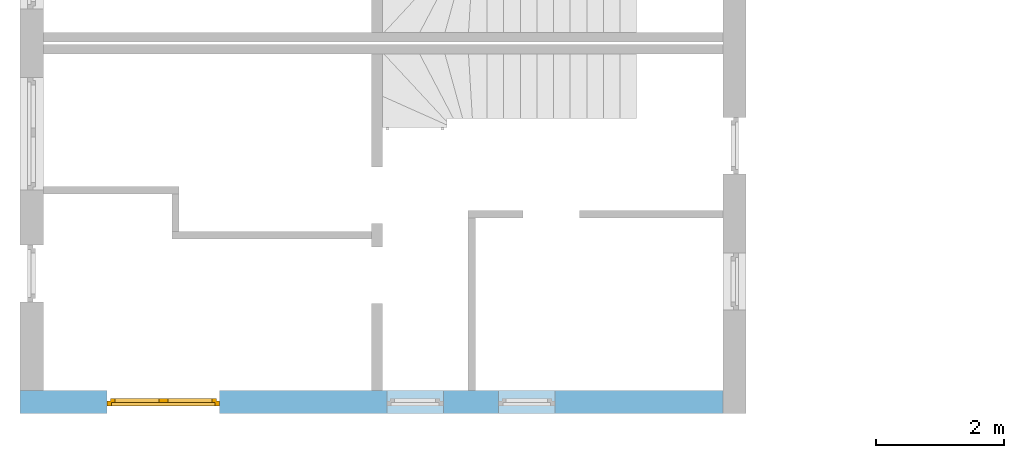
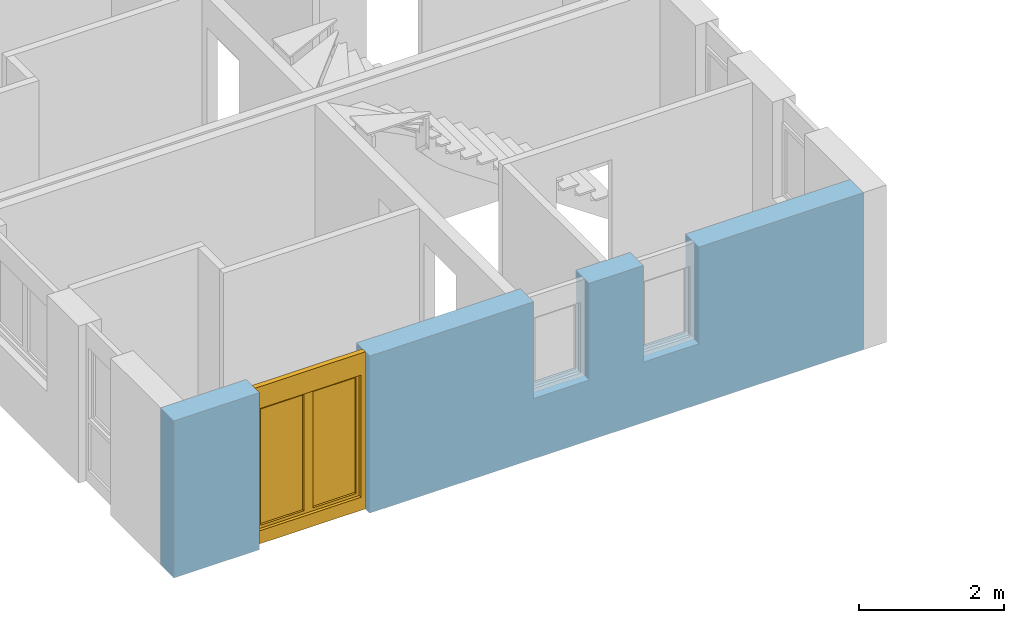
# One storey, part 4 of 42: 1 window, 3 openings, plus 1 element that does not belong to this part.
"""IFC2X3 building model written with IfcOpenShell, lengths in millimetres."""

import ifcopenshell
import ifcopenshell.guid

model = None  # the IFC model being written
_history = None  # IfcOwnerHistory: only IFC2X3 demands one
_inside = {}  # id of a spatial element -> (the spatial element, [elements in it])
_under = {}  # id of a project, library or spatial element -> (it, [spatial elements below it])
_declared = {}  # id of a project -> (the project, [libraries it declares])
_typed = {}  # id of a type object -> (the type object, [elements of that type])
_made_of = {}  # id of a material, layer set ... -> (it, [elements and type objects made of it])


def new_model(schema):
    """Start an empty IFC model of exactly this schema.

    Asked for "IFC4X3", IfcOpenShell would pick the latest addendum, in which some entities
    have other attributes; the version numbers below select the first issue.
    IFC2X3 requires an IfcOwnerHistory on every rooted entity: one is made here for all.
    """
    global model, _history
    if schema == "IFC4X3":
        model = ifcopenshell.file(schema_version=(4, 3, 0, 0))
    else:
        model = ifcopenshell.file(schema=schema)
    _inside.clear()
    _under.clear()
    _declared.clear()
    _typed.clear()
    _made_of.clear()
    _history = None
    if model.schema == "IFC2X3":
        org = make("IfcOrganization", Name="unknown")
        user = make(
            "IfcPersonAndOrganization",
            ThePerson=make("IfcPerson", FamilyName="unknown"),
            TheOrganization=org,
        )
        app = make(
            "IfcApplication",
            ApplicationDeveloper=org,
            Version="unknown",
            ApplicationFullName="unknown",
            ApplicationIdentifier="unknown",
        )
        _history = make(
            "IfcOwnerHistory",
            OwningUser=user,
            OwningApplication=app,
            ChangeAction="ADDED",
            CreationDate=0,
        )
    return model


def make(cls, **values):
    """One entity of the class cls with the attributes given. An attribute that is None is left unset."""
    return model.create_entity(
        cls, **{name: value for name, value in values.items() if value is not None}
    )


def entity(cls, *values):
    """Any entity or typed value of the class cls, its attributes in the order of the schema. None: left unset."""
    e = model.create_entity(cls)
    for i, value in enumerate(values):
        if value is not None:
            e[i] = value
    return e


def rooted(cls, **values):
    """An entity with a GlobalId (a new one), such as an element, a storey or a relation."""
    return make(cls, GlobalId=ifcopenshell.guid.new(), OwnerHistory=_history, **values)


def si_unit(unit_type, name, prefix=None):
    """IfcSIUnit, for example si_unit("LENGTHUNIT", "METRE", prefix="MILLI")."""
    return make("IfcSIUnit", UnitType=unit_type, Prefix=prefix, Name=name)


def converted_unit(unit_type, name, factor, base, dimensions=None, offset=None):
    """IfcConversionBasedUnit, such as the inch: factor (a typed value) times the base unit."""
    return make(
        "IfcConversionBasedUnit"
        if offset is None
        else "IfcConversionBasedUnitWithOffset",
        ConversionOffset=offset,
        Dimensions=None
        if dimensions is None
        else entity("IfcDimensionalExponents", *dimensions),
        UnitType=unit_type,
        Name=name,
        ConversionFactor=make(
            "IfcMeasureWithUnit", ValueComponent=factor, UnitComponent=base
        ),
    )


def assignment(units):
    """IfcUnitAssignment: the units of a project."""
    return None if units is None else make("IfcUnitAssignment", Units=units)


def point(xyz):
    """IfcCartesianPoint."""
    return None if xyz is None else make("IfcCartesianPoint", Coordinates=xyz)


def direction(xyz):
    """IfcDirection."""
    return None if xyz is None else make("IfcDirection", DirectionRatios=xyz)


def frame(location, z_axis=None, x_axis=None):
    """IfcAxis2Placement3D, a coordinate frame: its origin and axes. An axis left out is left unset."""
    return make(
        "IfcAxis2Placement3D",
        Location=point(location),
        Axis=direction(z_axis),
        RefDirection=direction(x_axis),
    )


def frame_2d(location, x_axis=None):
    """IfcAxis2Placement2D, a coordinate frame in the plane: its origin and x axis."""
    return make(
        "IfcAxis2Placement2D", Location=point(location), RefDirection=direction(x_axis)
    )


def origin():
    """The frame at (0, 0, 0) with its axes left unset."""
    return frame((0.0, 0.0, 0.0))


def origin_with_axes():
    """The frame at (0, 0, 0) with the z axis (0, 0, 1) and the x axis (1, 0, 0) written out."""
    return frame((0.0, 0.0, 0.0), z_axis=(0.0, 0.0, 1.0), x_axis=(1.0, 0.0, 0.0))


def place(relative_to, where):
    """IfcLocalPlacement: puts the frame where relative to a parent placement (None: the world)."""
    return make(
        "IfcLocalPlacement", PlacementRelTo=relative_to, RelativePlacement=where
    )


def context(
    kind, dimensions, precision=None, world=None, true_north=None, identifier=None
):
    """IfcGeometricRepresentationContext, for example the 3D "Model" context."""
    return make(
        "IfcGeometricRepresentationContext",
        ContextIdentifier=identifier,
        ContextType=kind,
        CoordinateSpaceDimension=dimensions,
        Precision=precision,
        WorldCoordinateSystem=world,
        TrueNorth=true_north,
    )


def subcontext(parent, identifier, kind, view, scale=None):
    """IfcGeometricRepresentationSubContext, for example "Body" below "Model"."""
    return make(
        "IfcGeometricRepresentationSubContext",
        ContextIdentifier=identifier,
        ContextType=kind,
        ParentContext=parent,
        TargetScale=scale,
        TargetView=view,
    )


def project(units=None, contexts=None):
    """IfcProject with its units and contexts."""
    return rooted(
        "IfcProject",
        Name="project",
        RepresentationContexts=contexts,
        UnitsInContext=assignment(units),
    )


def spatial(cls, under=None, at=None, **own):
    """A site, building, storey or space (cls), placed at a placement, below another one or the project."""
    s = rooted(cls, ObjectPlacement=at, **own)
    if under is not None:
        _under.setdefault(under.id(), (under, []))[1].append(s)
    return s


def profile(cls, at=None, kind="AREA", **sizes):
    """A parametric profile (cls). Its sizes go by their IFC names, for example OverallWidth=200.0."""
    return make(cls, ProfileType=kind, Position=at, **sizes)


def rectangle(**sizes):
    """IfcRectangleProfileDef."""
    return profile("IfcRectangleProfileDef", **sizes)


def extrude(swept, where, along, depth):
    """IfcExtrudedAreaSolid: the profile swept, set in the frame where, extruded along a direction by depth."""
    return make(
        "IfcExtrudedAreaSolid",
        SweptArea=swept,
        Position=where,
        ExtrudedDirection=direction(along),
        Depth=depth,
    )


def faces_of(points, faces, orient=None, outer=None):
    """IfcFace entities. A face is a list of loops; a loop is a list of indices into points, from 0.

    orient and outer hold one flag for each loop. By default every Orientation is true, the
    first loop of a face is its IfcFaceOuterBound and the others are IfcFaceBound.
    """
    made = []
    for i, loops in enumerate(faces):
        bounds = []
        for j, loop in enumerate(loops):
            is_outer = j == 0 if outer is None else outer[i][j]
            bounds.append(
                make(
                    "IfcFaceOuterBound" if is_outer else "IfcFaceBound",
                    Bound=make("IfcPolyLoop", Polygon=[points[k] for k in loop]),
                    Orientation=True if orient is None else orient[i][j],
                )
            )
        made.append(make("IfcFace", Bounds=bounds))
    return made


def faceted_brep(points, faces, orient=None, outer=None, voids=None):
    """IfcFacetedBrep: a solid bounded by flat faces; with voids (closed shells), ...WithVoids."""
    shared = [point(p) for p in points]
    hull = make("IfcClosedShell", CfsFaces=faces_of(shared, faces, orient, outer))
    if voids is None:
        return make("IfcFacetedBrep", Outer=hull)
    return make(
        "IfcFacetedBrepWithVoids",
        Outer=hull,
        Voids=[
            make(cls, CfsFaces=faces_of(shared, fs, o, b)) for cls, fs, o, b in voids
        ],
    )


def shape(context_of_items, identifier, shape_type, items):
    """IfcShapeRepresentation: the items that make up one representation, for example the "Body"."""
    return make(
        "IfcShapeRepresentation",
        ContextOfItems=context_of_items,
        RepresentationIdentifier=identifier,
        RepresentationType=shape_type,
        Items=items,
    )


def material(Name=None, Category=None):
    """IfcMaterial."""
    return make("IfcMaterial", Name=Name, Category=Category)


def layer(
    of_material, thickness, ventilated=None, Name=None, Category=None, Priority=None
):
    """IfcMaterialLayer: one layer of a wall or slab, of a material (None: an air gap)."""
    return make(
        "IfcMaterialLayer",
        Material=of_material,
        LayerThickness=thickness,
        IsVentilated=ventilated,
        Name=Name,
        Category=Category,
        Priority=Priority,
    )


def layer_set(layers, Name=None):
    """IfcMaterialLayerSet."""
    return make("IfcMaterialLayerSet", MaterialLayers=layers, LayerSetName=Name)


def layer_usage(for_layer_set, set_direction, sense, offset, extent=None):
    """IfcMaterialLayerSetUsage: how a layer set lies in its element."""
    return make(
        "IfcMaterialLayerSetUsage",
        ForLayerSet=for_layer_set,
        LayerSetDirection=set_direction,
        DirectionSense=sense,
        OffsetFromReferenceLine=offset,
        ReferenceExtent=extent,
    )


def made_of(thing, what):
    """Note that an element or type object is made of a material, layer set ...; save() writes the relation."""
    if what is not None:
        _made_of.setdefault(what.id(), (what, []))[1].append(thing)
    return thing


def type_object(cls, material=None, **own):
    """A type object (cls), such as IfcWallType, which elements share."""
    return made_of(rooted(cls, **own), material)


def element(
    cls,
    number,
    at=None,
    inside=None,
    cuts=None,
    type_object=None,
    material=None,
    context=None,
    identifier="Body",
    shape_type=None,
    held_by="IfcProductDefinitionShape",
    body=None,
    shapes=None,
    **own,
):
    """One element of the class cls, such as IfcWall. Its Tag is "e" and its number.

    at: its placement. inside: the storey or other place that contains it. cuts: it is an
    opening in that element (IfcRelVoidsElement). A single representation is given by context,
    identifier, shape_type and body (its items); several are given by shapes. held_by: the class
    of the entity that holds the representations. save() writes the other relations.
    """
    e = rooted(cls, Tag="e%d" % number, ObjectPlacement=at, **own)
    if body is not None:
        shapes = [shape(context, identifier, shape_type, body)]
    if shapes is not None:
        e.Representation = make(held_by, Representations=shapes)
    if inside is not None:
        _inside.setdefault(inside.id(), (inside, []))[1].append(e)
    if cuts is not None:
        rooted(
            "IfcRelVoidsElement", RelatingBuildingElement=cuts, RelatedOpeningElement=e
        )
    if type_object is not None:
        _typed.setdefault(type_object.id(), (type_object, []))[1].append(e)
    return made_of(e, material)


def fill(opening, filler):
    """IfcRelFillsElement: the door or window that sits in an opening."""
    return rooted(
        "IfcRelFillsElement",
        RelatingOpeningElement=opening,
        RelatedBuildingElement=filler,
    )


def aggregate(whole, parts):
    """IfcRelAggregates: a whole, such as a stair, and the parts it consists of."""
    return rooted("IfcRelAggregates", RelatingObject=whole, RelatedObjects=parts)


def save(model, path):
    """Write the relations noted so far, then the file.

    IfcRelAggregates (storeys below a building ...), IfcRelContainedInSpatialStructure (elements
    in a storey), IfcRelDefinesByType, IfcRelAssociatesMaterial and IfcRelDeclares: one each for
    every whole, place, type object, material and project.
    """
    for whole, parts in _under.values():
        aggregate(whole, parts)
    for where, things in _inside.values():
        rooted(
            "IfcRelContainedInSpatialStructure",
            RelatedElements=things,
            RelatingStructure=where,
        )
    for kind, things in _typed.values():
        rooted("IfcRelDefinesByType", RelatedObjects=things, RelatingType=kind)
    for what, things in _made_of.values():
        rooted("IfcRelAssociatesMaterial", RelatedObjects=things, RelatingMaterial=what)
    for by, libraries in _declared.values():
        rooted("IfcRelDeclares", RelatingContext=by, RelatedDefinitions=libraries)
    model.write(path)


model = new_model("IFC2X3")

# Units and contexts
model_context = context("Model", 3, precision=1e-05, world=origin())
body_context = subcontext(model_context, "Body", "Model", "MODEL_VIEW")
ifc_project = project(units=[si_unit("LENGTHUNIT", "METRE", prefix="MILLI"), converted_unit("PLANEANGLEUNIT", "DEGREE", entity("IfcPlaneAngleMeasure", 0.0174532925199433), si_unit("PLANEANGLEUNIT", "RADIAN"), dimensions=[0, 0, 0, 0, 0, 0, 0]), si_unit("AREAUNIT", "SQUARE_METRE"), si_unit("VOLUMEUNIT", "CUBIC_METRE")], contexts=[model_context])

# Building, storey
building_placement = place(None, origin())
building = spatial("IfcBuilding", under=ifc_project, at=building_placement, Name="Gebäude", CompositionType="ELEMENT")
storey_placement = place(building_placement, frame((0.0, 0.0, 2730.0), z_axis=(0.0, 0.0, 1.0), x_axis=(1.0, 0.0, 0.0)))
storey = spatial("IfcBuildingStorey", under=building, at=storey_placement, Name="OG.- Grundriss", CompositionType="ELEMENT", Elevation=2730.0)

# Wall, openings, window
ifc_material_1 = material(Name="Poroton")
ifc_layer = layer(ifc_material_1, 365.0000000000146)
ifc_layer_set = layer_set([ifc_layer])
ifc_layer_usage = layer_usage(ifc_layer_set, "AXIS2", "POSITIVE", 0.0)
wall_placement = place(storey_placement, frame((130992.7928067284, 125274.8877324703, 0.0), z_axis=(0.0, 0.0, 1.0), x_axis=(1.0, -2.749253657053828e-11, 0.0)))
wall = element("IfcWallStandardCase", 1, at=wall_placement, inside=storey, material=ifc_layer_usage, Name="<Unnamed Element>", context=body_context, shape_type="SweptSolid", body=[
    extrude(rectangle(XDim=10999.99999999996, YDim=365.0000000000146, at=frame_2d((5499.999999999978, 182.5000000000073), x_axis=(1.0, 0.0))), origin_with_axes(), (0.0, 0.0, 1.0), 2650.0),
])
opening_1_placement = place(wall_placement, frame((1364.999999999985, -7.494236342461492e-12, 0.0), z_axis=(0.0, 1.0, 0.0), x_axis=(0.0, 0.0, 1.0)))
opening_1 = element("IfcOpeningElement", 2, at=opening_1_placement, cuts=wall, Name="Fensteröffnung", ObjectType="Opening", context=body_context, shape_type="SweptSolid", body=[
    extrude(rectangle(XDim=2650.0, YDim=1760.0, at=frame_2d((1325.0, 880.0), x_axis=(1.0, 0.0))), origin_with_axes(), (0.0, 0.0, 1.0), 365.0000000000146),
])
opening_2_placement = place(wall_placement, frame((7489.999999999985, -3.477907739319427e-11, 1020.0), z_axis=(0.0, 1.0, 0.0), x_axis=(0.0, 0.0, 1.0)))
element("IfcOpeningElement", 3, at=opening_2_placement, cuts=wall, Name="Fensteröffnung", ObjectType="Opening", context=body_context, shape_type="SweptSolid", body=[
    extrude(rectangle(XDim=1630.0, YDim=885.0, at=frame_2d((815.0, 442.5), x_axis=(1.0, 0.0))), origin_with_axes(), (0.0, 0.0, 1.0), 365.0000000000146),
])
opening_3_placement = place(wall_placement, frame((5739.999999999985, -1.658918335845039e-11, 1020.0), z_axis=(0.0, 1.0, 0.0), x_axis=(0.0, 0.0, 1.0)))
element("IfcOpeningElement", 4, at=opening_3_placement, cuts=wall, Name="Fensteröffnung", ObjectType="Opening", context=body_context, shape_type="SweptSolid", body=[
    extrude(rectangle(XDim=1630.0, YDim=885.0, at=frame_2d((815.0, 442.5), x_axis=(1.0, 0.0))), origin_with_axes(), (0.0, 0.0, 1.0), 365.0000000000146),
])
ifc_material_2 = material()
window_style = type_object("IfcWindowStyle", Name="Fenster", ConstructionType="NOTDEFINED", OperationType="USERDEFINED", ParameterTakesPrecedence=False, Sizeable=False)
window_placement = place(opening_1_placement, frame((0.0, 0.0, 0.0), z_axis=(1.0, 0.0, 0.0), x_axis=(0.0, 1.0, 0.0)))
window = element("IfcWindow", 5, at=window_placement, inside=storey, type_object=window_style, material=ifc_material_2, Name="Fenster", OverallHeight=2650.0, OverallWidth=1760.0, context=body_context, shape_type="Brep", body=[
    faceted_brep([(-1.224022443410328e-08, 200.0000000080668, 2650.0), (-1.224022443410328e-08, 200.0000000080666, -2.449293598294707e-15), (69.99999998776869, 200.0000000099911, -2.449293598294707e-15), (69.99999998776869, 200.0000000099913, 2650.0), (-1.004082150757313e-08, 119.9999999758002, 2.449293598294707e-15), (-1.004082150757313e-08, 119.9999999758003, 2650.0), (69.99999998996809, 119.9999999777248, 2650.0), (69.99999998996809, 119.9999999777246, 2.449293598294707e-15), (-1.224022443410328e-08, 200.0000000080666, -2.449293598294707e-15), (-1.224022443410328e-08, 200.0000000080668, 2650.0), (-1.004082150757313e-08, 119.9999999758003, 2650.0), (-1.004082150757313e-08, 119.9999999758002, 2.449293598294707e-15), (69.99999998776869, 200.0000000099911, -2.449293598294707e-15), (-1.224022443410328e-08, 200.0000000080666, -2.449293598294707e-15), (-1.004082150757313e-08, 119.9999999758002, 2.449293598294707e-15), (69.99999998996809, 119.9999999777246, 2.449293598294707e-15), (69.99999998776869, 200.0000000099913, 2650.0), (69.99999998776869, 200.0000000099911, -2.449293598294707e-15), (69.99999998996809, 119.9999999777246, 2.449293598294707e-15), (69.99999998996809, 119.9999999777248, 2650.0), (-1.224022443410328e-08, 200.0000000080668, 2650.0), (69.99999998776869, 200.0000000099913, 2650.0), (69.99999998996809, 119.9999999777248, 2650.0), (-1.004082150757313e-08, 119.9999999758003, 2650.0)], [[[0, 1, 2, 3]], [[4, 5, 6, 7]], [[8, 9, 10, 11]], [[12, 13, 14, 15]], [[16, 17, 18, 19]], [[20, 21, 22, 23]]], orient=[[False], [False], [False], [False], [False], [False]]),
    faceted_brep([(1689.999999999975, 200.0000000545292, 2650.0), (1689.999999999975, 200.000000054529, -2.449293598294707e-15), (1759.999999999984, 200.0000000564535, -2.449293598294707e-15), (1759.999999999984, 200.0000000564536, 2650.0), (1690.000000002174, 120.0000000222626, 2.449293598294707e-15), (1690.000000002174, 120.0000000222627, 2650.0), (1760.000000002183, 120.0000000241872, 2650.0), (1760.000000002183, 120.000000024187, 2.449293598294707e-15), (1689.999999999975, 200.000000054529, -2.449293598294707e-15), (1689.999999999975, 200.0000000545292, 2650.0), (1690.000000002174, 120.0000000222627, 2650.0), (1690.000000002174, 120.0000000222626, 2.449293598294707e-15), (1759.999999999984, 200.0000000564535, -2.449293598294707e-15), (1689.999999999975, 200.000000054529, -2.449293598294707e-15), (1690.000000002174, 120.0000000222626, 2.449293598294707e-15), (1760.000000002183, 120.000000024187, 2.449293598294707e-15), (1759.999999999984, 200.0000000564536, 2650.0), (1759.999999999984, 200.0000000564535, -2.449293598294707e-15), (1760.000000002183, 120.000000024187, 2.449293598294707e-15), (1760.000000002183, 120.0000000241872, 2650.0), (1689.999999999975, 200.0000000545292, 2650.0), (1759.999999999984, 200.0000000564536, 2650.0), (1760.000000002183, 120.0000000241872, 2650.0), (1690.000000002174, 120.0000000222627, 2650.0)], [[[0, 1, 2, 3]], [[4, 5, 6, 7]], [[8, 9, 10, 11]], [[12, 13, 14, 15]], [[16, 17, 18, 19]], [[20, 21, 22, 23]]], orient=[[False], [False], [False], [False], [False], [False]]),
    faceted_brep([(69.99999998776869, 200.0000000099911, 220.0), (69.99999998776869, 200.0000000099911, -2.449293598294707e-15), (1689.999999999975, 200.000000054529, -2.449293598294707e-15), (1689.999999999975, 200.000000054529, 220.0), (69.99999998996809, 119.9999999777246, 2.449293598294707e-15), (69.99999998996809, 119.9999999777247, 220.0), (1690.000000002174, 120.0000000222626, 220.0), (1690.000000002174, 120.0000000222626, 2.449293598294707e-15), (69.99999998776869, 200.0000000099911, -2.449293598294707e-15), (69.99999998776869, 200.0000000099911, 220.0), (69.99999998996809, 119.9999999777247, 220.0), (69.99999998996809, 119.9999999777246, 2.449293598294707e-15), (1689.999999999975, 200.000000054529, -2.449293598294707e-15), (69.99999998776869, 200.0000000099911, -2.449293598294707e-15), (69.99999998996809, 119.9999999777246, 2.449293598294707e-15), (1690.000000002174, 120.0000000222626, 2.449293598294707e-15), (1689.999999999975, 200.000000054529, 220.0), (1689.999999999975, 200.000000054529, -2.449293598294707e-15), (1690.000000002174, 120.0000000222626, 2.449293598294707e-15), (1690.000000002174, 120.0000000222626, 220.0), (69.99999998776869, 200.0000000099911, 220.0), (1689.999999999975, 200.000000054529, 220.0), (1690.000000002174, 120.0000000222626, 220.0), (69.99999998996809, 119.9999999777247, 220.0)], [[[0, 1, 2, 3]], [[4, 5, 6, 7]], [[8, 9, 10, 11]], [[12, 13, 14, 15]], [[16, 17, 18, 19]], [[20, 21, 22, 23]]], orient=[[False], [False], [False], [False], [False], [False]]),
    faceted_brep([(69.99999998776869, 200.0000000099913, 2650.0), (69.99999998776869, 200.0000000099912, 2280.0), (1689.999999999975, 200.0000000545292, 2280.0), (1689.999999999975, 200.0000000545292, 2650.0), (69.99999998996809, 119.9999999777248, 2280.0), (69.99999998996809, 119.9999999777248, 2650.0), (1690.000000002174, 120.0000000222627, 2650.0), (1690.000000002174, 120.0000000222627, 2280.0), (69.99999998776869, 200.0000000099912, 2280.0), (69.99999998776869, 200.0000000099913, 2650.0), (69.99999998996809, 119.9999999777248, 2650.0), (69.99999998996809, 119.9999999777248, 2280.0), (1689.999999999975, 200.0000000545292, 2280.0), (69.99999998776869, 200.0000000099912, 2280.0), (69.99999998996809, 119.9999999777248, 2280.0), (1690.000000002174, 120.0000000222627, 2280.0), (1689.999999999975, 200.0000000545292, 2650.0), (1689.999999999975, 200.0000000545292, 2280.0), (1690.000000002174, 120.0000000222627, 2280.0), (1690.000000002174, 120.0000000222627, 2650.0), (69.99999998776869, 200.0000000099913, 2650.0), (1689.999999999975, 200.0000000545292, 2650.0), (1690.000000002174, 120.0000000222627, 2650.0), (69.99999998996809, 119.9999999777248, 2650.0)], [[[0, 1, 2, 3]], [[4, 5, 6, 7]], [[8, 9, 10, 11]], [[12, 13, 14, 15]], [[16, 17, 18, 19]], [[20, 21, 22, 23]]], orient=[[False], [False], [False], [False], [False], [False]]),
    faceted_brep([(49.99999998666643, 240.0000000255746, 2300.0), (49.99999998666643, 240.0000000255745, 200.0), (119.9999999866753, 240.000000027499, 200.0), (119.9999999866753, 240.0000000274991, 2300.0), (49.99999998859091, 169.9999999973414, 200.0), (49.99999998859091, 169.9999999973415, 2300.0), (119.9999999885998, 169.999999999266, 2300.0), (119.9999999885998, 169.9999999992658, 200.0), (49.99999998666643, 240.0000000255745, 200.0), (49.99999998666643, 240.0000000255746, 2300.0), (49.99999998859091, 169.9999999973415, 2300.0), (49.99999998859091, 169.9999999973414, 200.0), (119.9999999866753, 240.000000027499, 200.0), (49.99999998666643, 240.0000000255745, 200.0), (49.99999998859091, 169.9999999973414, 200.0), (119.9999999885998, 169.9999999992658, 200.0), (119.9999999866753, 240.0000000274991, 2300.0), (119.9999999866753, 240.000000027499, 200.0), (119.9999999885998, 169.9999999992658, 200.0), (119.9999999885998, 169.999999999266, 2300.0), (49.99999998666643, 240.0000000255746, 2300.0), (119.9999999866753, 240.0000000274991, 2300.0), (119.9999999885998, 169.999999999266, 2300.0), (49.99999998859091, 169.9999999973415, 2300.0)], [[[0, 1, 2, 3]], [[4, 5, 6, 7]], [[8, 9, 10, 11]], [[12, 13, 14, 15]], [[16, 17, 18, 19]], [[20, 21, 22, 23]]], orient=[[False], [False], [False], [False], [False], [False]]),
    faceted_brep([(809.499999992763, 240.0000000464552, 2300.0), (809.499999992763, 240.0000000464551, 200.0), (879.4999999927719, 240.0000000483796, 200.0), (879.4999999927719, 240.0000000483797, 2300.0), (809.4999999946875, 170.0000000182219, 200.0), (809.4999999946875, 170.0000000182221, 2300.0), (879.4999999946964, 170.0000000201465, 2300.0), (879.4999999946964, 170.0000000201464, 200.0), (809.499999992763, 240.0000000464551, 200.0), (809.499999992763, 240.0000000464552, 2300.0), (809.4999999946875, 170.0000000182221, 2300.0), (809.4999999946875, 170.0000000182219, 200.0), (879.4999999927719, 240.0000000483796, 200.0), (809.499999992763, 240.0000000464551, 200.0), (809.4999999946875, 170.0000000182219, 200.0), (879.4999999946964, 170.0000000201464, 200.0), (879.4999999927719, 240.0000000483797, 2300.0), (879.4999999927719, 240.0000000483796, 200.0), (879.4999999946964, 170.0000000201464, 200.0), (879.4999999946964, 170.0000000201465, 2300.0), (809.499999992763, 240.0000000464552, 2300.0), (879.4999999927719, 240.0000000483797, 2300.0), (879.4999999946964, 170.0000000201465, 2300.0), (809.4999999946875, 170.0000000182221, 2300.0)], [[[0, 1, 2, 3]], [[4, 5, 6, 7]], [[8, 9, 10, 11]], [[12, 13, 14, 15]], [[16, 17, 18, 19]], [[20, 21, 22, 23]]], orient=[[False], [False], [False], [False], [False], [False]]),
    faceted_brep([(119.9999999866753, 240.000000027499, 270.0), (119.9999999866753, 240.000000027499, 200.0), (809.4999999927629, 240.0000000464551, 200.0), (809.4999999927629, 240.0000000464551, 270.0), (119.9999999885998, 169.9999999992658, 200.0), (119.9999999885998, 169.9999999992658, 270.0), (809.4999999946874, 170.0000000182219, 270.0), (809.4999999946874, 170.0000000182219, 200.0), (119.9999999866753, 240.000000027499, 200.0), (119.9999999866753, 240.000000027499, 270.0), (119.9999999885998, 169.9999999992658, 270.0), (119.9999999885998, 169.9999999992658, 200.0), (809.4999999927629, 240.0000000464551, 200.0), (119.9999999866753, 240.000000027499, 200.0), (119.9999999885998, 169.9999999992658, 200.0), (809.4999999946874, 170.0000000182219, 200.0), (809.4999999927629, 240.0000000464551, 270.0), (809.4999999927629, 240.0000000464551, 200.0), (809.4999999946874, 170.0000000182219, 200.0), (809.4999999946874, 170.0000000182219, 270.0), (119.9999999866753, 240.000000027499, 270.0), (809.4999999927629, 240.0000000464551, 270.0), (809.4999999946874, 170.0000000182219, 270.0), (119.9999999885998, 169.9999999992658, 270.0)], [[[0, 1, 2, 3]], [[4, 5, 6, 7]], [[8, 9, 10, 11]], [[12, 13, 14, 15]], [[16, 17, 18, 19]], [[20, 21, 22, 23]]], orient=[[False], [False], [False], [False], [False], [False]]),
    faceted_brep([(119.9999999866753, 240.0000000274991, 2300.0), (119.9999999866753, 240.0000000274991, 2230.0), (809.4999999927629, 240.0000000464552, 2230.0), (809.4999999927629, 240.0000000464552, 2300.0), (119.9999999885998, 169.999999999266, 2230.0), (119.9999999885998, 169.999999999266, 2300.0), (809.4999999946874, 170.0000000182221, 2300.0), (809.4999999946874, 170.0000000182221, 2230.0), (119.9999999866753, 240.0000000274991, 2230.0), (119.9999999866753, 240.0000000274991, 2300.0), (119.9999999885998, 169.999999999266, 2300.0), (119.9999999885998, 169.999999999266, 2230.0), (809.4999999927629, 240.0000000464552, 2230.0), (119.9999999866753, 240.0000000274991, 2230.0), (119.9999999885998, 169.999999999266, 2230.0), (809.4999999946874, 170.0000000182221, 2230.0), (809.4999999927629, 240.0000000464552, 2300.0), (809.4999999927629, 240.0000000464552, 2230.0), (809.4999999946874, 170.0000000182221, 2230.0), (809.4999999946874, 170.0000000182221, 2300.0), (119.9999999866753, 240.0000000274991, 2300.0), (809.4999999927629, 240.0000000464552, 2300.0), (809.4999999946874, 170.0000000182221, 2300.0), (119.9999999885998, 169.999999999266, 2300.0)], [[[0, 1, 2, 3]], [[4, 5, 6, 7]], [[8, 9, 10, 11]], [[12, 13, 14, 15]], [[16, 17, 18, 19]], [[20, 21, 22, 23]]], orient=[[False], [False], [False], [False], [False], [False]]),
    faceted_brep([(880.499999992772, 240.0000000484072, 2300.0), (880.499999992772, 240.000000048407, 200.0), (950.499999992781, 240.0000000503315, 200.0), (950.499999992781, 240.0000000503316, 2300.0), (880.4999999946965, 170.0000000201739, 200.0), (880.4999999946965, 170.000000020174, 2300.0), (950.4999999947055, 170.0000000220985, 2300.0), (950.4999999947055, 170.0000000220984, 200.0), (880.499999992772, 240.000000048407, 200.0), (880.499999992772, 240.0000000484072, 2300.0), (880.4999999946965, 170.000000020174, 2300.0), (880.4999999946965, 170.0000000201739, 200.0), (950.499999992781, 240.0000000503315, 200.0), (880.499999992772, 240.000000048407, 200.0), (880.4999999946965, 170.0000000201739, 200.0), (950.4999999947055, 170.0000000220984, 200.0), (950.499999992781, 240.0000000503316, 2300.0), (950.499999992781, 240.0000000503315, 200.0), (950.4999999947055, 170.0000000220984, 200.0), (950.4999999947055, 170.0000000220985, 2300.0), (880.499999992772, 240.0000000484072, 2300.0), (950.499999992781, 240.0000000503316, 2300.0), (950.4999999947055, 170.0000000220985, 2300.0), (880.4999999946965, 170.000000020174, 2300.0)], [[[0, 1, 2, 3]], [[4, 5, 6, 7]], [[8, 9, 10, 11]], [[12, 13, 14, 15]], [[16, 17, 18, 19]], [[20, 21, 22, 23]]], orient=[[False], [False], [False], [False], [False], [False]]),
    faceted_brep([(1639.999999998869, 240.0000000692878, 2300.0), (1639.999999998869, 240.0000000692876, 200.0), (1709.999999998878, 240.0000000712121, 200.0), (1709.999999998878, 240.0000000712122, 2300.0), (1640.000000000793, 170.0000000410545, 200.0), (1640.000000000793, 170.0000000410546, 2300.0), (1710.000000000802, 170.0000000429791, 2300.0), (1710.000000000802, 170.000000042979, 200.0), (1639.999999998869, 240.0000000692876, 200.0), (1639.999999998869, 240.0000000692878, 2300.0), (1640.000000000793, 170.0000000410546, 2300.0), (1640.000000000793, 170.0000000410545, 200.0), (1709.999999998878, 240.0000000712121, 200.0), (1639.999999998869, 240.0000000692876, 200.0), (1640.000000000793, 170.0000000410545, 200.0), (1710.000000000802, 170.000000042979, 200.0), (1709.999999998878, 240.0000000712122, 2300.0), (1709.999999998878, 240.0000000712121, 200.0), (1710.000000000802, 170.000000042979, 200.0), (1710.000000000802, 170.0000000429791, 2300.0), (1639.999999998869, 240.0000000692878, 2300.0), (1709.999999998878, 240.0000000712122, 2300.0), (1710.000000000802, 170.0000000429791, 2300.0), (1640.000000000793, 170.0000000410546, 2300.0)], [[[0, 1, 2, 3]], [[4, 5, 6, 7]], [[8, 9, 10, 11]], [[12, 13, 14, 15]], [[16, 17, 18, 19]], [[20, 21, 22, 23]]], orient=[[False], [False], [False], [False], [False], [False]]),
    faceted_brep([(950.499999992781, 240.0000000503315, 270.0), (950.499999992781, 240.0000000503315, 200.0), (1639.999999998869, 240.0000000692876, 200.0), (1639.999999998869, 240.0000000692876, 270.0), (950.4999999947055, 170.0000000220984, 200.0), (950.4999999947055, 170.0000000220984, 270.0), (1640.000000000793, 170.0000000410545, 270.0), (1640.000000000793, 170.0000000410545, 200.0), (950.499999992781, 240.0000000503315, 200.0), (950.499999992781, 240.0000000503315, 270.0), (950.4999999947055, 170.0000000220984, 270.0), (950.4999999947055, 170.0000000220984, 200.0), (1639.999999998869, 240.0000000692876, 200.0), (950.499999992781, 240.0000000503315, 200.0), (950.4999999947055, 170.0000000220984, 200.0), (1640.000000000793, 170.0000000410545, 200.0), (1639.999999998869, 240.0000000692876, 270.0), (1639.999999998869, 240.0000000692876, 200.0), (1640.000000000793, 170.0000000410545, 200.0), (1640.000000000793, 170.0000000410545, 270.0), (950.499999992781, 240.0000000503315, 270.0), (1639.999999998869, 240.0000000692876, 270.0), (1640.000000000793, 170.0000000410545, 270.0), (950.4999999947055, 170.0000000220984, 270.0)], [[[0, 1, 2, 3]], [[4, 5, 6, 7]], [[8, 9, 10, 11]], [[12, 13, 14, 15]], [[16, 17, 18, 19]], [[20, 21, 22, 23]]], orient=[[False], [False], [False], [False], [False], [False]]),
    faceted_brep([(950.499999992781, 240.0000000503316, 2300.0), (950.499999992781, 240.0000000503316, 2230.0), (1639.999999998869, 240.0000000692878, 2230.0), (1639.999999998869, 240.0000000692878, 2300.0), (950.4999999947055, 170.0000000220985, 2230.0), (950.4999999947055, 170.0000000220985, 2300.0), (1640.000000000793, 170.0000000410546, 2300.0), (1640.000000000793, 170.0000000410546, 2230.0), (950.499999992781, 240.0000000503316, 2230.0), (950.499999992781, 240.0000000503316, 2300.0), (950.4999999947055, 170.0000000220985, 2300.0), (950.4999999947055, 170.0000000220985, 2230.0), (1639.999999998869, 240.0000000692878, 2230.0), (950.499999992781, 240.0000000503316, 2230.0), (950.4999999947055, 170.0000000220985, 2230.0), (1640.000000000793, 170.0000000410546, 2230.0), (1639.999999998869, 240.0000000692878, 2300.0), (1639.999999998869, 240.0000000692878, 2230.0), (1640.000000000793, 170.0000000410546, 2230.0), (1640.000000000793, 170.0000000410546, 2300.0), (950.499999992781, 240.0000000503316, 2300.0), (1639.999999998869, 240.0000000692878, 2300.0), (1640.000000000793, 170.0000000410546, 2300.0), (950.4999999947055, 170.0000000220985, 2300.0)], [[[0, 1, 2, 3]], [[4, 5, 6, 7]], [[8, 9, 10, 11]], [[12, 13, 14, 15]], [[16, 17, 18, 19]], [[20, 21, 22, 23]]], orient=[[False], [False], [False], [False], [False], [False]]),
    faceted_brep([(119.9999999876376, 205.0000000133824, 270.0), (809.4999999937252, 205.0000000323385, 270.0), (809.4999999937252, 205.0000000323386, 2229.999999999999), (119.9999999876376, 205.0000000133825, 2229.999999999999), (119.9999999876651, 204.0000000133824, 270.0), (119.9999999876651, 204.0000000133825, 2229.999999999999), (809.4999999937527, 204.0000000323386, 2229.999999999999), (809.4999999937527, 204.0000000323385, 270.0), (119.9999999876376, 205.0000000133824, 270.0), (119.9999999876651, 204.0000000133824, 270.0), (809.4999999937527, 204.0000000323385, 270.0), (809.4999999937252, 205.0000000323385, 270.0), (809.4999999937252, 205.0000000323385, 270.0), (809.4999999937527, 204.0000000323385, 270.0), (809.4999999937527, 204.0000000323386, 2229.999999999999), (809.4999999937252, 205.0000000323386, 2229.999999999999), (809.4999999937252, 205.0000000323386, 2229.999999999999), (809.4999999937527, 204.0000000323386, 2229.999999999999), (119.9999999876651, 204.0000000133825, 2229.999999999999), (119.9999999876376, 205.0000000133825, 2229.999999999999), (119.9999999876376, 205.0000000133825, 2229.999999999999), (119.9999999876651, 204.0000000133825, 2229.999999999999), (119.9999999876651, 204.0000000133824, 270.0), (119.9999999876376, 205.0000000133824, 270.0)], [[[0, 1, 2, 3]], [[4, 5, 6, 7]], [[8, 9, 10, 11]], [[12, 13, 14, 15]], [[16, 17, 18, 19]], [[20, 21, 22, 23]]], orient=[[False], [False], [False], [False], [False], [False]]),
    faceted_brep([(950.4999999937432, 205.0000000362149, 270.0), (1639.999999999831, 205.000000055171, 270.0), (1639.999999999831, 205.0000000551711, 2229.999999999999), (950.4999999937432, 205.0000000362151, 2229.999999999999), (950.4999999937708, 204.0000000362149, 270.0), (950.4999999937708, 204.0000000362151, 2229.999999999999), (1639.999999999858, 204.0000000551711, 2229.999999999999), (1639.999999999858, 204.000000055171, 270.0), (950.4999999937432, 205.0000000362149, 270.0), (950.4999999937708, 204.0000000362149, 270.0), (1639.999999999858, 204.000000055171, 270.0), (1639.999999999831, 205.000000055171, 270.0), (1639.999999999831, 205.000000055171, 270.0), (1639.999999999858, 204.000000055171, 270.0), (1639.999999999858, 204.0000000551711, 2229.999999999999), (1639.999999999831, 205.0000000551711, 2229.999999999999), (1639.999999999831, 205.0000000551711, 2229.999999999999), (1639.999999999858, 204.0000000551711, 2229.999999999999), (950.4999999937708, 204.0000000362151, 2229.999999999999), (950.4999999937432, 205.0000000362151, 2229.999999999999), (950.4999999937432, 205.0000000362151, 2229.999999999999), (950.4999999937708, 204.0000000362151, 2229.999999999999), (950.4999999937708, 204.0000000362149, 270.0), (950.4999999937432, 205.0000000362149, 270.0)], [[[0, 1, 2, 3]], [[4, 5, 6, 7]], [[8, 9, 10, 11]], [[12, 13, 14, 15]], [[16, 17, 18, 19]], [[20, 21, 22, 23]]], orient=[[False], [False], [False], [False], [False], [False]]),
])
fill(opening_1, window)

save(model, "model.ifc")
